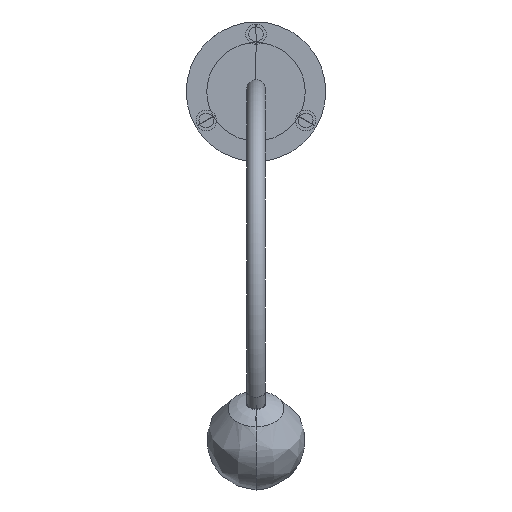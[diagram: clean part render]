
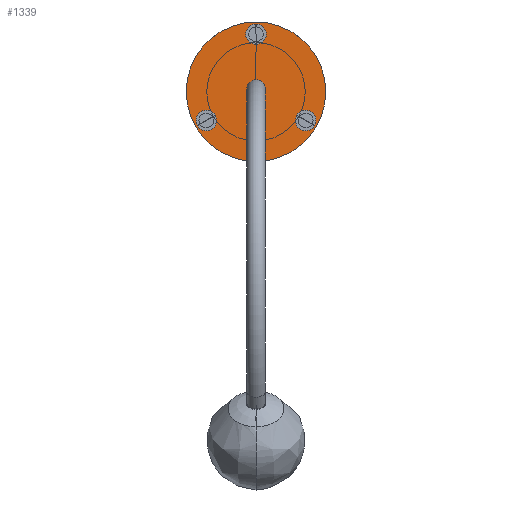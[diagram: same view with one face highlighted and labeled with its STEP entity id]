
A CAD part, top view. The second image highlights one B-rep face of the part: STEP entity #1339.
In plain terms, the highlighted planar face has unit normal (0, 0, 1).
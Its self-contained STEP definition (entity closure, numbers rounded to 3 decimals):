
#37=FACE_BOUND('',#331,.T.);
#38=FACE_BOUND('',#332,.T.);
#39=FACE_BOUND('',#333,.T.);
#108=CIRCLE('',#1464,6.234);
#109=CIRCLE('',#1466,6.234);
#114=CIRCLE('',#1474,6.234);
#115=CIRCLE('',#1476,6.234);
#120=CIRCLE('',#1484,6.234);
#121=CIRCLE('',#1486,6.234);
#122=CIRCLE('',#1488,42.5);
#124=CIRCLE('',#1491,42.5);
#233=FACE_OUTER_BOUND('',#330,.T.);
#330=EDGE_LOOP('',(#1150,#1151));
#331=EDGE_LOOP('',(#1152,#1153));
#332=EDGE_LOOP('',(#1154,#1155));
#333=EDGE_LOOP('',(#1156,#1157));
#642=VERTEX_POINT('',#2191);
#643=VERTEX_POINT('',#2193);
#648=VERTEX_POINT('',#2211);
#649=VERTEX_POINT('',#2213);
#654=VERTEX_POINT('',#2231);
#655=VERTEX_POINT('',#2233);
#656=VERTEX_POINT('',#2239);
#657=VERTEX_POINT('',#2240);
#798=EDGE_CURVE('',#643,#642,#108,.T.);
#800=EDGE_CURVE('',#642,#643,#109,.T.);
#808=EDGE_CURVE('',#649,#648,#114,.T.);
#810=EDGE_CURVE('',#648,#649,#115,.T.);
#818=EDGE_CURVE('',#655,#654,#120,.T.);
#820=EDGE_CURVE('',#654,#655,#121,.T.);
#821=EDGE_CURVE('',#656,#657,#122,.T.);
#825=EDGE_CURVE('',#657,#656,#124,.T.);
#1150=ORIENTED_EDGE('',*,*,#825,.T.);
#1151=ORIENTED_EDGE('',*,*,#821,.T.);
#1152=ORIENTED_EDGE('',*,*,#820,.T.);
#1153=ORIENTED_EDGE('',*,*,#818,.T.);
#1154=ORIENTED_EDGE('',*,*,#810,.T.);
#1155=ORIENTED_EDGE('',*,*,#808,.T.);
#1156=ORIENTED_EDGE('',*,*,#800,.T.);
#1157=ORIENTED_EDGE('',*,*,#798,.T.);
#1255=PLANE('',#1494);
#1339=ADVANCED_FACE('',(#233,#37,#38,#39),#1255,.T.);
#1464=AXIS2_PLACEMENT_3D('',#2194,#1803,#1804);
#1466=AXIS2_PLACEMENT_3D('',#2197,#1808,#1809);
#1474=AXIS2_PLACEMENT_3D('',#2214,#1827,#1828);
#1476=AXIS2_PLACEMENT_3D('',#2217,#1832,#1833);
#1484=AXIS2_PLACEMENT_3D('',#2234,#1851,#1852);
#1486=AXIS2_PLACEMENT_3D('',#2237,#1856,#1857);
#1488=AXIS2_PLACEMENT_3D('',#2241,#1860,#1861);
#1491=AXIS2_PLACEMENT_3D('',#2248,#1868,#1869);
#1494=AXIS2_PLACEMENT_3D('',#2251,#1874,#1875);
#1803=DIRECTION('center_axis',(0.,0.,-1.));
#1804=DIRECTION('ref_axis',(0.995,-0.105,0.));
#1808=DIRECTION('center_axis',(0.,0.,-1.));
#1809=DIRECTION('ref_axis',(0.995,-0.105,0.));
#1827=DIRECTION('center_axis',(0.,0.,-1.));
#1828=DIRECTION('ref_axis',(-0.407,0.914,0.));
#1832=DIRECTION('center_axis',(0.,0.,-1.));
#1833=DIRECTION('ref_axis',(-0.407,0.914,0.));
#1851=DIRECTION('center_axis',(0.,0.,-1.));
#1852=DIRECTION('ref_axis',(-0.588,-0.809,0.));
#1856=DIRECTION('center_axis',(0.,0.,-1.));
#1857=DIRECTION('ref_axis',(-0.588,-0.809,0.));
#1860=DIRECTION('center_axis',(0.,0.,1.));
#1861=DIRECTION('ref_axis',(1.,0.,0.));
#1868=DIRECTION('center_axis',(0.,0.,1.));
#1869=DIRECTION('ref_axis',(1.,0.,0.));
#1874=DIRECTION('center_axis',(0.,0.,1.));
#1875=DIRECTION('ref_axis',(0.,1.,0.));
#2191=CARTESIAN_POINT('',(-24.907,-1014.38,4.));
#2193=CARTESIAN_POINT('',(-35.705,-1020.614,4.));
#2194=CARTESIAN_POINT('Origin',(-30.306,-1017.497,4.));
#2197=CARTESIAN_POINT('Origin',(-30.306,-1017.497,4.));
#2211=CARTESIAN_POINT('',(24.907,-1014.38,4.));
#2213=CARTESIAN_POINT('',(35.705,-1020.614,4.));
#2214=CARTESIAN_POINT('Origin',(30.306,-1017.497,4.));
#2217=CARTESIAN_POINT('Origin',(30.306,-1017.497,4.));
#2231=CARTESIAN_POINT('',(0.,-971.24,4.));
#2233=CARTESIAN_POINT('',(0.,-958.771,4.));
#2234=CARTESIAN_POINT('Origin',(0.,-965.006,
4.));
#2237=CARTESIAN_POINT('Origin',(0.,-965.006,
4.));
#2239=CARTESIAN_POINT('',(42.5,-1000.,4.));
#2240=CARTESIAN_POINT('',(-42.5,-1000.,4.));
#2241=CARTESIAN_POINT('Origin',(0.,-1000.,4.));
#2248=CARTESIAN_POINT('Origin',(0.,-1000.,4.));
#2251=CARTESIAN_POINT('Origin',(42.5,-1000.,4.));
